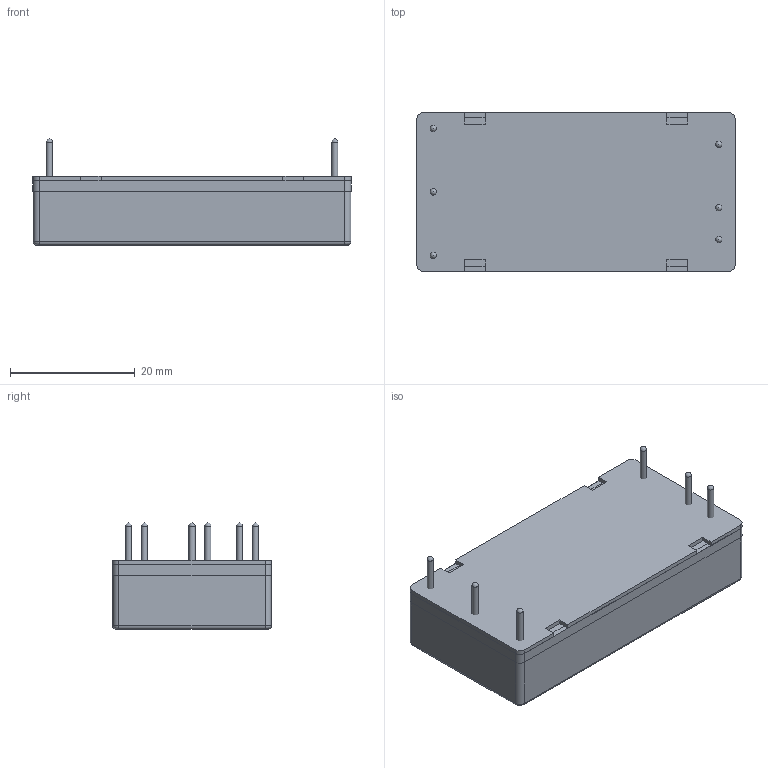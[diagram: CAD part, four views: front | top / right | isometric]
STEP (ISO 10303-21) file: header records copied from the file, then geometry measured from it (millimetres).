
FILE_DESCRIPTION(/* description */ (''),/* implementation_level */ '2;1');
FILE_NAME(/* name */ 'C:\Users\Calliope\Desktop\THR 10WI(Type A).stp',/* time_stamp */ '2020-02-21T11:21:52+08:00',/* author */ ('Calliope'),/* organization */ (''),/* preprocessor_version */ 'ST-DEVELOPER v16.1',/* originating_system */ 'Autodesk Inventor 2016',/* authorisation */ '');
FILE_SCHEMA (('AUTOMOTIVE_DESIGN { 1 0 10303 214 3 1 1 }'));
Length unit declared in the file: millimetre
Products named in the file (1): THR 10WI(Type A)
Bounding box: 50.95 x 25.45 x 17 mm (x, y, z)
Surface area: 7357.8 mm2 (no closed solid volume)
Topology: 0 solids, 7 shells, 68 faces, 206 edges, 114 vertices
Faces by surface type: plane 36, cylinder 22, sphere 6, bspline 4
Full cylindrical faces by diameter (mm): 1 x6
Entity records: 2208 total; most frequent: CARTESIAN_POINT 397, DIRECTION 366, ORIENTED_EDGE 314, EDGE_CURVE 188, LINE 140, VECTOR 140, AXIS2_PLACEMENT_3D 113, VERTEX_POINT 108
